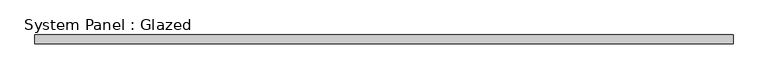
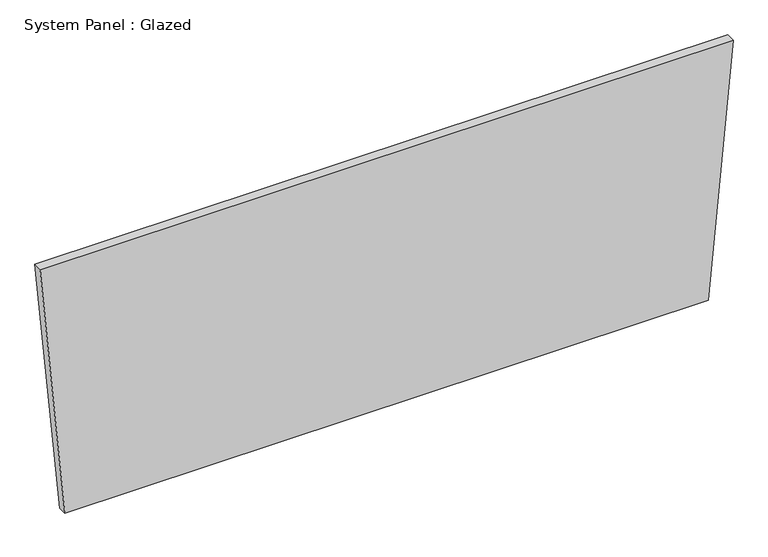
"""IFC4 building model written with IfcOpenShell, lengths in millimetres: plate geometry, System Panel : Glazed."""

from ifc_helpers import new_model, si_unit, frame, origin, place, context, project, spatial, polyline, outline, extrude, source, transform, mapped, element, save


def system_panel_glazed_43d3b831(model_context):
    return source(origin(), model_context, "Body", "SweptSolid", [
        extrude(outline(polyline([(0.0, -915.810024), (0.0, 915.810024), (758.7366017, 986.2569489), (758.7366017, -986.2569489), (0.0, -915.810024)])), frame((0.0, -44.45, 0.0), z_axis=(0.0, 1.0, 0.0), x_axis=(0.0, 0.0, 1.0)), (0.0, 0.0, 1.0), 25.4),
    ])


if __name__ == "__main__":
    model = new_model("IFC4")
    model_context = context("Model", 3, world=origin())
    ifc_project = project(units=[si_unit("LENGTHUNIT", "METRE", prefix="MILLI")], contexts=[model_context])
    site = spatial("IfcSite", under=ifc_project)
    building = spatial("IfcBuilding", under=site)
    placement = place(None, origin())
    system_panel_glazed_shape = system_panel_glazed_43d3b831(model_context)
    element("IfcPlate", 1, ObjectType="System Panel : Glazed", at=placement, inside=building, context=model_context, shape_type="MappedRepresentation", body=[
        mapped(system_panel_glazed_shape, transform((0.0, 0.0, 0.0), x_axis=(1.0, 0.0, 0.0), y_axis=(0.0, 1.0, 0.0), z_axis=(0.0, 0.0, 1.0))),
    ])
    save(model, "model.ifc")
